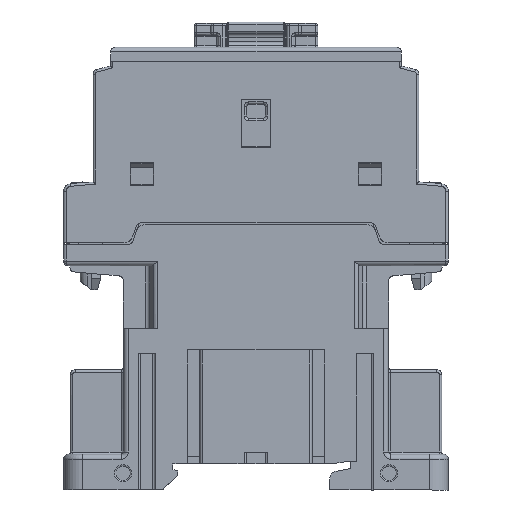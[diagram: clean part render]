
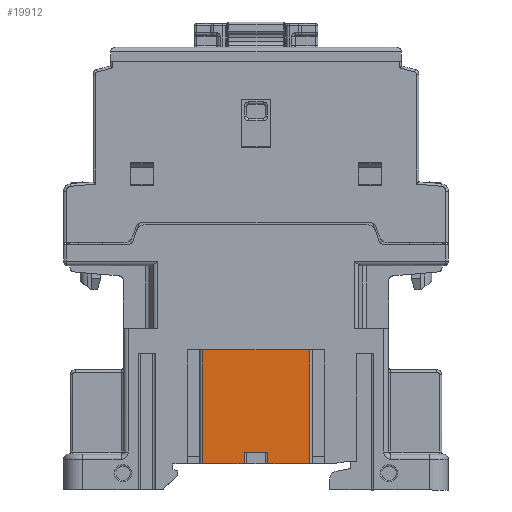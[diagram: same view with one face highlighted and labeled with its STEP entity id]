
A CAD part, left-side view. The second image highlights one B-rep face of the part: STEP entity #19912.
In plain terms, the highlighted planar face has unit normal (-1, 0, 0).
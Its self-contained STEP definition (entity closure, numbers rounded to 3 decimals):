
#2340=PLANE('',#61435);
#5161=LINE('',#85578,#11836);
#5162=LINE('',#85582,#11837);
#5163=LINE('',#85585,#11838);
#5164=LINE('',#85586,#11839);
#5165=LINE('',#85588,#11840);
#5166=LINE('',#85590,#11841);
#5167=LINE('',#85592,#11842);
#5168=LINE('',#85594,#11843);
#11836=VECTOR('',#67655,1.);
#11837=VECTOR('',#67660,1.);
#11838=VECTOR('',#67661,1.);
#11839=VECTOR('',#67662,1.);
#11840=VECTOR('',#67663,1.);
#11841=VECTOR('',#67664,1.);
#11842=VECTOR('',#67665,1.);
#11843=VECTOR('',#67666,1.);
#19912=ADVANCED_FACE('',(#22608),#2340,.F.);
#22608=FACE_OUTER_BOUND('',#25184,.T.);
#25184=EDGE_LOOP('',(#29177,#29178,#29179,#29180,#29181,#29182,#29183,#29184));
#29177=ORIENTED_EDGE('',*,*,#51531,.F.);
#29178=ORIENTED_EDGE('',*,*,#51532,.F.);
#29179=ORIENTED_EDGE('',*,*,#51529,.F.);
#29180=ORIENTED_EDGE('',*,*,#51533,.F.);
#29181=ORIENTED_EDGE('',*,*,#51534,.T.);
#29182=ORIENTED_EDGE('',*,*,#51535,.T.);
#29183=ORIENTED_EDGE('',*,*,#51536,.T.);
#29184=ORIENTED_EDGE('',*,*,#51537,.F.);
#44089=VERTEX_POINT('',#85577);
#44090=VERTEX_POINT('',#85579);
#44091=VERTEX_POINT('',#85583);
#44092=VERTEX_POINT('',#85584);
#44093=VERTEX_POINT('',#85587);
#44094=VERTEX_POINT('',#85589);
#44095=VERTEX_POINT('',#85591);
#44096=VERTEX_POINT('',#85593);
#51529=EDGE_CURVE('',#44089,#44090,#5161,.T.);
#51531=EDGE_CURVE('',#44091,#44092,#5162,.T.);
#51532=EDGE_CURVE('',#44090,#44091,#5163,.T.);
#51533=EDGE_CURVE('',#44093,#44089,#5164,.T.);
#51534=EDGE_CURVE('',#44093,#44094,#5165,.T.);
#51535=EDGE_CURVE('',#44094,#44095,#5166,.T.);
#51536=EDGE_CURVE('',#44095,#44096,#5167,.T.);
#51537=EDGE_CURVE('',#44092,#44096,#5168,.T.);
#61435=AXIS2_PLACEMENT_3D('',#85595,#67667,#67668);
#67655=DIRECTION('',(0.,0.,1.));
#67660=DIRECTION('',(0.,0.,-1.));
#67661=DIRECTION('',(0.,-1.,0.));
#67662=DIRECTION('',(0.,1.,0.));
#67663=DIRECTION('',(0.,0.,1.));
#67664=DIRECTION('',(0.,-1.,0.));
#67665=DIRECTION('',(0.,0.,-1.));
#67666=DIRECTION('',(0.,1.,0.));
#67667=DIRECTION('',(1.,0.,0.));
#67668=DIRECTION('',(0.,0.,1.));
#85577=CARTESIAN_POINT('',(-3.01,8.286,45.798));
#85578=CARTESIAN_POINT('',(-3.01,8.286,47.998));
#85579=CARTESIAN_POINT('',(-3.01,8.286,69.798));
#85582=CARTESIAN_POINT('',(-3.01,-14.314,47.998));
#85583=CARTESIAN_POINT('',(-3.01,-14.314,69.798));
#85584=CARTESIAN_POINT('',(-3.01,-14.314,45.798));
#85585=CARTESIAN_POINT('',(-3.01,8.786,69.798));
#85586=CARTESIAN_POINT('',(-3.01,11.636,45.798));
#85587=CARTESIAN_POINT('',(-3.01,-0.514,45.798));
#85588=CARTESIAN_POINT('',(-3.01,-0.514,47.998));
#85589=CARTESIAN_POINT('',(-3.01,-0.514,48.298));
#85590=CARTESIAN_POINT('',(-3.01,2.886,48.298));
#85591=CARTESIAN_POINT('',(-3.01,-5.514,48.298));
#85592=CARTESIAN_POINT('',(-3.01,-5.514,47.998));
#85593=CARTESIAN_POINT('',(-3.01,-5.514,45.798));
#85594=CARTESIAN_POINT('',(-3.01,11.636,45.798));
#85595=CARTESIAN_POINT('',(-3.01,8.786,47.998));
